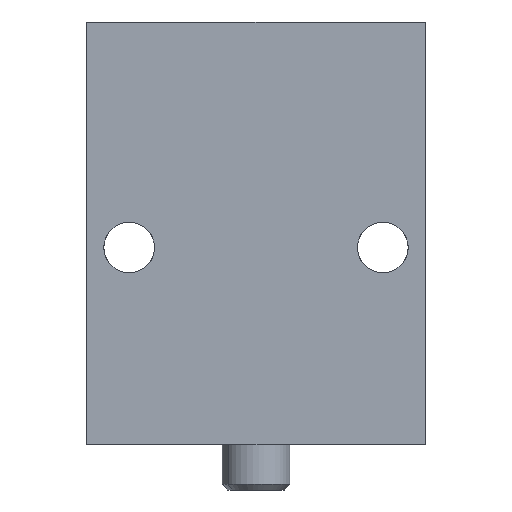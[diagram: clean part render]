
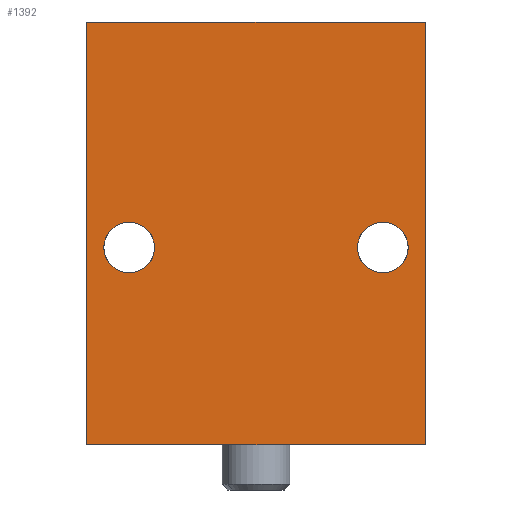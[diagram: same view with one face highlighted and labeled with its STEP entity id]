
A CAD part, front view. The second image highlights one B-rep face of the part: STEP entity #1392.
In plain terms, the highlighted planar face has unit normal (0, -1, 0).
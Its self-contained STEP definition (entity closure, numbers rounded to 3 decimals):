
#101 = VERTEX_POINT ( 'NONE', #2822 ) ;
#426 = DIRECTION ( 'NONE',  ( 0., 1., 0. ) ) ;
#801 = LINE ( 'NONE', #17339, #11464 ) ;
#816 = VERTEX_POINT ( 'NONE', #2832 ) ;
#839 = CARTESIAN_POINT ( 'NONE',  ( -30., 0., 40. ) ) ;
#876 = EDGE_LOOP ( 'NONE', ( #17374, #14239 ) ) ;
#896 = VERTEX_POINT ( 'NONE', #17217 ) ;
#1007 = AXIS2_PLACEMENT_3D ( 'NONE', #1797, #11086, #3253 ) ;
#1365 = DIRECTION ( 'NONE',  ( -1., 0., 0. ) ) ;
#1392 = ADVANCED_FACE ( 'NONE', ( #5139, #12060, #2353 ), #11378, .F. ) ;
#1782 = VERTEX_POINT ( 'NONE', #14178 ) ;
#1797 = CARTESIAN_POINT ( 'NONE',  ( -22.5, 0., 0. ) ) ;
#2106 = AXIS2_PLACEMENT_3D ( 'NONE', #4953, #14147, #6293 ) ;
#2196 = ORIENTED_EDGE ( 'NONE', *, *, #3907, .F. ) ;
#2353 = FACE_OUTER_BOUND ( 'NONE', #2892, .T. ) ;
#2808 = VECTOR ( 'NONE', #15573, 1000. ) ;
#2822 = CARTESIAN_POINT ( 'NONE',  ( -22.5, 0., -4.5 ) ) ;
#2832 = CARTESIAN_POINT ( 'NONE',  ( -22.5, 0., 4.5 ) ) ;
#2870 = EDGE_CURVE ( 'NONE', #1782, #896, #8209, .T. ) ;
#2892 = EDGE_LOOP ( 'NONE', ( #11506, #8468, #2196, #6240 ) ) ;
#2893 = ORIENTED_EDGE ( 'NONE', *, *, #6698, .T. ) ;
#3253 = DIRECTION ( 'NONE',  ( 0., 0., 1. ) ) ;
#3563 = CARTESIAN_POINT ( 'NONE',  ( 0., 0., 0. ) ) ;
#3758 = CARTESIAN_POINT ( 'NONE',  ( -30., 0., -35. ) ) ;
#3907 = EDGE_CURVE ( 'NONE', #896, #5163, #7957, .T. ) ;
#4167 = EDGE_CURVE ( 'NONE', #816, #101, #12414, .T. ) ;
#4718 = VECTOR ( 'NONE', #14232, 1000. ) ;
#4953 = CARTESIAN_POINT ( 'NONE',  ( -22.5, 0., 0. ) ) ;
#5139 = FACE_BOUND ( 'NONE', #13992, .T. ) ;
#5163 = VERTEX_POINT ( 'NONE', #16993 ) ;
#5385 = DIRECTION ( 'NONE',  ( 0., 0., 1. ) ) ;
#6046 = AXIS2_PLACEMENT_3D ( 'NONE', #7772, #16992, #9075 ) ;
#6138 = CARTESIAN_POINT ( 'NONE',  ( -30., 0., -35. ) ) ;
#6240 = ORIENTED_EDGE ( 'NONE', *, *, #2870, .F. ) ;
#6293 = DIRECTION ( 'NONE',  ( 0., 0., 1. ) ) ;
#6698 = EDGE_CURVE ( 'NONE', #101, #816, #15327, .T. ) ;
#6780 = LINE ( 'NONE', #3758, #2808 ) ;
#7116 = VERTEX_POINT ( 'NONE', #11365 ) ;
#7538 = VECTOR ( 'NONE', #8979, 1000. ) ;
#7772 = CARTESIAN_POINT ( 'NONE',  ( 22.5, 0., 0. ) ) ;
#7957 = LINE ( 'NONE', #16897, #7538 ) ;
#8209 = LINE ( 'NONE', #839, #4718 ) ;
#8466 = VERTEX_POINT ( 'NONE', #6138 ) ;
#8468 = ORIENTED_EDGE ( 'NONE', *, *, #12999, .F. ) ;
#8531 = CARTESIAN_POINT ( 'NONE',  ( 22.5, 0., 0. ) ) ;
#8979 = DIRECTION ( 'NONE',  ( 0., 0., -1. ) ) ;
#9021 = CIRCLE ( 'NONE', #9173, 4.5 ) ;
#9075 = DIRECTION ( 'NONE',  ( 0., 0., 1. ) ) ;
#9173 = AXIS2_PLACEMENT_3D ( 'NONE', #8531, #426, #9858 ) ;
#9681 = VERTEX_POINT ( 'NONE', #12575 ) ;
#9858 = DIRECTION ( 'NONE',  ( 0., 0., 1. ) ) ;
#9878 = CIRCLE ( 'NONE', #6046, 4.5 ) ;
#9900 = AXIS2_PLACEMENT_3D ( 'NONE', #3563, #14580, #5385 ) ;
#11086 = DIRECTION ( 'NONE',  ( 0., 1., 0. ) ) ;
#11365 = CARTESIAN_POINT ( 'NONE',  ( 22.5, 0., -4.5 ) ) ;
#11378 = PLANE ( 'NONE',  #9900 ) ;
#11464 = VECTOR ( 'NONE', #1365, 1000. ) ;
#11506 = ORIENTED_EDGE ( 'NONE', *, *, #14999, .F. ) ;
#12060 = FACE_BOUND ( 'NONE', #876, .T. ) ;
#12265 = EDGE_CURVE ( 'NONE', #7116, #9681, #9878, .T. ) ;
#12414 = CIRCLE ( 'NONE', #1007, 4.5 ) ;
#12575 = CARTESIAN_POINT ( 'NONE',  ( 22.5, 0., 4.5 ) ) ;
#12999 = EDGE_CURVE ( 'NONE', #5163, #8466, #801, .T. ) ;
#13136 = EDGE_CURVE ( 'NONE', #9681, #7116, #9021, .T. ) ;
#13992 = EDGE_LOOP ( 'NONE', ( #16082, #2893 ) ) ;
#14147 = DIRECTION ( 'NONE',  ( 0., 1., 0. ) ) ;
#14178 = CARTESIAN_POINT ( 'NONE',  ( -30., 0., 40. ) ) ;
#14232 = DIRECTION ( 'NONE',  ( 1., 0., 0. ) ) ;
#14239 = ORIENTED_EDGE ( 'NONE', *, *, #12265, .T. ) ;
#14580 = DIRECTION ( 'NONE',  ( 0., 1., 0. ) ) ;
#14999 = EDGE_CURVE ( 'NONE', #8466, #1782, #6780, .T. ) ;
#15327 = CIRCLE ( 'NONE', #2106, 4.5 ) ;
#15573 = DIRECTION ( 'NONE',  ( 0., 0., 1. ) ) ;
#16082 = ORIENTED_EDGE ( 'NONE', *, *, #4167, .T. ) ;
#16897 = CARTESIAN_POINT ( 'NONE',  ( 30., 0., -35. ) ) ;
#16992 = DIRECTION ( 'NONE',  ( 0., 1., 0. ) ) ;
#16993 = CARTESIAN_POINT ( 'NONE',  ( 30., 0., -35. ) ) ;
#17217 = CARTESIAN_POINT ( 'NONE',  ( 30., 0., 40. ) ) ;
#17339 = CARTESIAN_POINT ( 'NONE',  ( -30., 0., -35. ) ) ;
#17374 = ORIENTED_EDGE ( 'NONE', *, *, #13136, .T. ) ;
